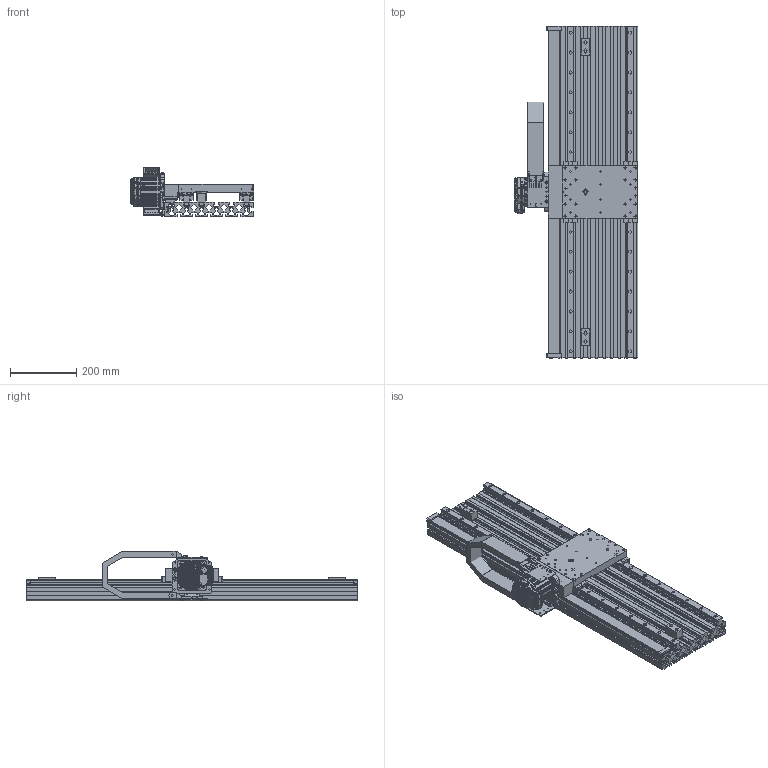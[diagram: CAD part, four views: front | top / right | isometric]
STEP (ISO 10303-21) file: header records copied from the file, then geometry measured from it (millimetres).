
FILE_DESCRIPTION( ( '' ), ' ' );
FILE_NAME( '/vol/tmp/translate-1745834186580882918/5c7ea1848114d517143082a3.step', '2019-03-05T16:19:22', ( '' ), ( '' ), ' ', ' ', ' ' );
FILE_SCHEMA( ( 'AUTOMOTIVE_DESIGN { 1 0 10303 214 1 1 1 1 }' ) );
Length unit declared in the file: metre
Products named in the file (104): RAIL FASTENERS <13>; 100001-8065 M5-.80 X 25 ALLOY SHCS; 20mm BEARING RAIL CAP; 102684-001 BOSCH 10mm T-BLOCK M5; RAIL FASTENERS <14>; RAIL FASTENERS <3>; RAIL FASTENERS <5>; TRAY FASTENERS <2>; #8118; #8126; TRAY FASTENERS <5>; RAIL FASTENERS <16>; RAIL FASTENERS <10>; RAIL FASTENERS <15>; RAIL FASTENERS <11>; RAIL FASTENERS <1>; RAIL FASTENERS <2>; TRAY FASTENERS <1>; RAIL FASTENERS <4>; TRAY FASTENERS <3>; RAIL FASTENERS <12>; RAIL FASTENERS <8>; RAIL FASTENERS <9>; RAIL FASTENERS <7>; RAIL FASTENERS <17>; TRAY FASTENERS <4>; RAIL FASTENERS <6>; RAIL <1>; 102732-1000 20mm STANDARD GUIDE RAIL; 106888-001 20mm RAIL COVER; 104587-001 SBL-M DYNAMIC BEARING ASSEMBLY <1>; 102638-005 5202 SHIELDED DOUBLE ROW BALL BEARING; 103126-001 SBL-M BEARING SHAFT; 104587-001 SBL-M DYNAMIC BEARING ASSEMBLY <2>; TRAY <1>; 102610-005 VHB TAPE 1-1/4 WIDE; 102656-1000 SBL-M BELT TRAY; 102567-001 T5 X 32mm BELTING; RAIL <2>; POLYURETHANE BUMPLER <1>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
Assembly tree (278 placements, depth 5):
  Assem1
    102977-001 LINKS
    102567-001 T5 X 32mm BELTING
    SBL-M BELT CLAMP <2>
      102704-002 SBL-M BELT END CLAMP
      100013-005 M3 X 4 SS SET SCREW  x4
    LEFT <1>
      100006-052 M5-.80 X 8 SS BHCS  x2
      100002-011 M3 X 6 SS FH X-RECESS SCREW  x4
      100013-016 M6 X 10 SS SET SCREW  x2
      102977-001 (POC) IGUS E-CHAIN BRACKET WITH PIN
      102821-010 SERVOBELT UPPER IGUS BRACKET
      104009-001 LOWER E-CHAIN BRACKET MOUNT
    106617-002 HIGH M8 <2>
      100001-8117 M8-1.25 X 25 ALLOY SHCS  x2
      102684-003 BOSCH 10mm T-BLOCK M8  x2
      106617-002 HARD STOP BLOCK M8
    1000 CHASSIS <1>
      102928-1000 45-SERIES PROFILE 45X270H
      RAIL <2>
        102732-1000 20mm STANDARD GUIDE RAIL
        106888-001 20mm RAIL COVER
        RAIL FASTENERS <10>
          20mm BEARING RAIL CAP
          102684-001 BOSCH 10mm T-BLOCK M5
          100001-8065 M5-.80 X 25 ALLOY SHCS
        RAIL FASTENERS <1>
          100001-8065 M5-.80 X 25 ALLOY SHCS
          102684-001 BOSCH 10mm T-BLOCK M5
          20mm BEARING RAIL CAP
        RAIL FASTENERS <16>
          100001-8065 M5-.80 X 25 ALLOY SHCS
          20mm BEARING RAIL CAP
          102684-001 BOSCH 10mm T-BLOCK M5
        RAIL FASTENERS <12>
          20mm BEARING RAIL CAP
          102684-001 BOSCH 10mm T-BLOCK M5
          100001-8065 M5-.80 X 25 ALLOY SHCS
        RAIL FASTENERS <2>
          20mm BEARING RAIL CAP
          100001-8065 M5-.80 X 25 ALLOY SHCS
          102684-001 BOSCH 10mm T-BLOCK M5
        RAIL FASTENERS <13>
          100001-8065 M5-.80 X 25 ALLOY SHCS
          20mm BEARING RAIL CAP
          102684-001 BOSCH 10mm T-BLOCK M5
        RAIL FASTENERS <6>
          100001-8065 M5-.80 X 25 ALLOY SHCS
          102684-001 BOSCH 10mm T-BLOCK M5
          20mm BEARING RAIL CAP
        RAIL FASTENERS <5>
          100001-8065 M5-.80 X 25 ALLOY SHCS
          102684-001 BOSCH 10mm T-BLOCK M5
          20mm BEARING RAIL CAP
        RAIL FASTENERS <17>
          20mm BEARING RAIL CAP
          100001-8065 M5-.80 X 25 ALLOY SHCS
          102684-001 BOSCH 10mm T-BLOCK M5
        RAIL FASTENERS <14>
          102684-001 BOSCH 10mm T-BLOCK M5
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Bounding box: 372.42 x 1000 x 150.3 mm (x, y, z)
Topology: 246 solids, 251 shells, 9485 faces, 23970 edges, 15184 vertices
Faces by surface type: plane 4127, cylinder 2508, bspline 1034, torus 905, cone 728, sphere 141, extrusion 40, revolution 2
Full cylindrical faces by diameter (mm): 0.152 x1, 2.2 x31, 2.261 x25, 2.44 x25, 2.47 x4, 2.5 x40, 2.6 x8, 2.66 x8, 2.997 x4, 3 x20, 3.175 x1, 3.184 x1, 3.2 x4, 3.3 x5, 3.4 x2, 3.454 x5, 4 x2, 4.166 x5, 4.2 x13, 4.216 x16, 4.5 x7, 5 x66, 5.004 x60, 5.156 x5, 5.284 x1, 5.5 x60, 5.563 x12, 5.6 x4, 5.85 x8, 6 x8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
Entity records: 342421 total; most frequent: CARTESIAN_POINT 138254, ORIENTED_EDGE 31042, DIRECTION 30961, EDGE_CURVE 15521, AXIS2_PLACEMENT_3D 12508, VERTEX_POINT 10245, EDGE_LOOP 8094, FACE_OUTER_BOUND 7302
